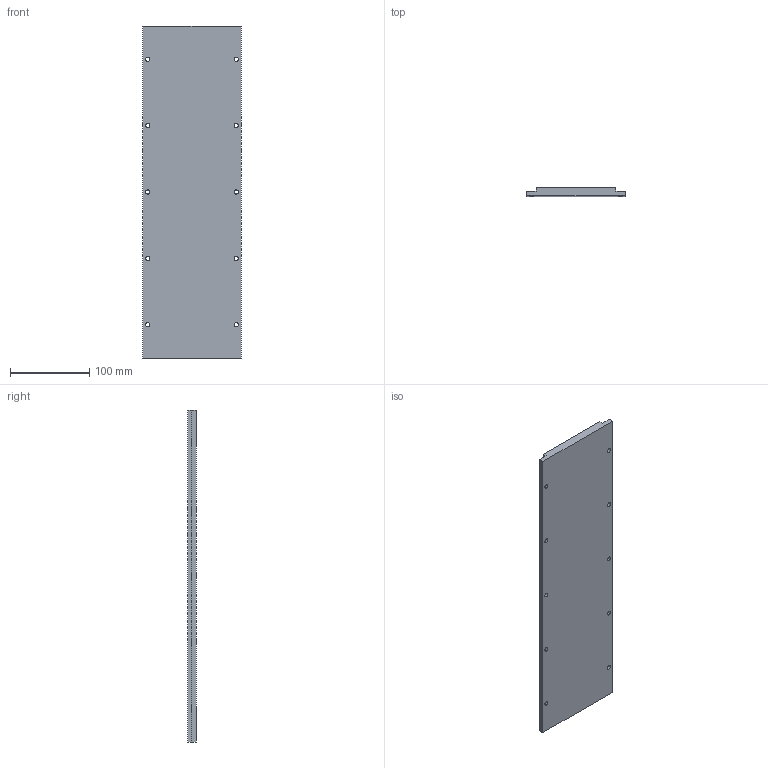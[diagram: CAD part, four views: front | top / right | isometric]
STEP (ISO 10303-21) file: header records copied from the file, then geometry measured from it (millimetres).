
FILE_DESCRIPTION (( 'STEP AP214' ), '1' );
FILE_NAME ('TLM-125-L420.STEP', '2022-05-12T08:08:03', ( 'Microsoft' ), ( 'Microsoft' ), 'SwSTEP 2.0', 'SolidWorks 2016', '' );
FILE_SCHEMA (( 'AUTOMOTIVE_DESIGN' ));
Length unit declared in the file: millimetre
Products named in the file (1): TLM-125-L420
Bounding box: 125 x 10.8 x 420 mm (x, y, z)
Volume: 516864.4 mm3; surface area: 117333.8 mm2
Topology: 1 solids, 1 shells, 60 faces, 144 edges, 96 vertices
Faces by surface type: cylinder 40, plane 20
Entity records: 1862 total; most frequent: DIRECTION 346, CARTESIAN_POINT 301, ORIENTED_EDGE 288, EDGE_CURVE 144, AXIS2_PLACEMENT_3D 141, VERTEX_POINT 96, EDGE_LOOP 90, CIRCLE 80
